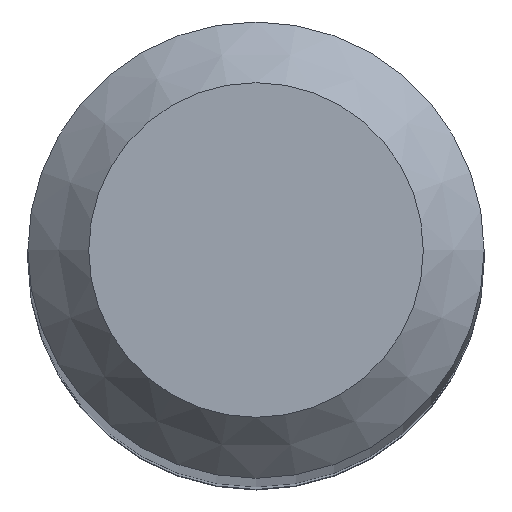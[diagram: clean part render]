
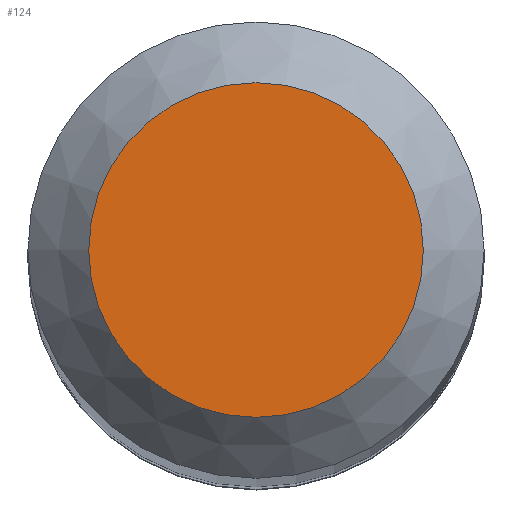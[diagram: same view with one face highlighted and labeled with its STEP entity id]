
A CAD part, top view. The second image highlights one B-rep face of the part: STEP entity #124.
In plain terms, the highlighted planar face has unit normal (0, 0, 1).
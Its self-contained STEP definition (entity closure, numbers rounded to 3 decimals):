
#108=CARTESIAN_POINT('',(2.2,0.0,90.0));
#109=DIRECTION('',(0.0,0.0,1.0));
#110=DIRECTION('',(1.0,0.0,0.0));
#111=AXIS2_PLACEMENT_3D('',#108,#109,#110);
#112=PLANE('',#111);
#113=CARTESIAN_POINT('',(-2.2,0.0,90.0));
#114=VERTEX_POINT('',#113);
#115=CARTESIAN_POINT('',(0.0,0.0,90.0));
#116=DIRECTION('',(0.0,0.0,-1.0));
#117=DIRECTION('',(-1.0,0.0,0.0));
#118=AXIS2_PLACEMENT_3D('',#115,#116,#117);
#119=CIRCLE('',#118,2.2);
#120=EDGE_CURVE('',#114,#114,#119,.T.);
#121=ORIENTED_EDGE('',*,*,#120,.F.);
#122=EDGE_LOOP('',(#121));
#123=FACE_OUTER_BOUND('',#122,.T.);
#124=ADVANCED_FACE('',(#123),#112,.T.);
